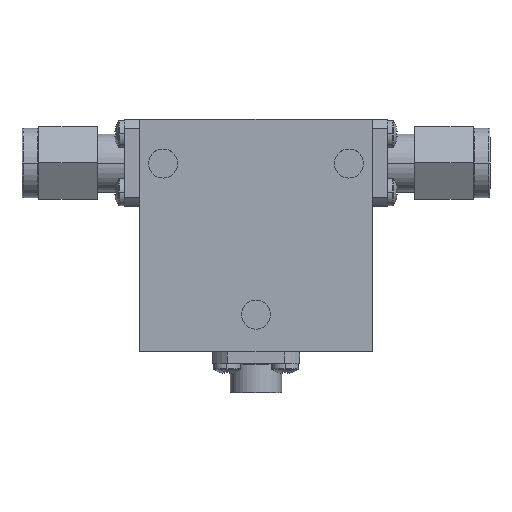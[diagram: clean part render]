
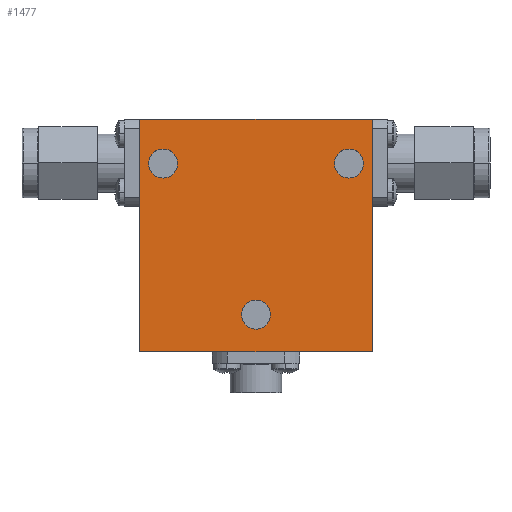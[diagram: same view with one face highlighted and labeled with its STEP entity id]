
A CAD part, top view. The second image highlights one B-rep face of the part: STEP entity #1477.
In plain terms, the highlighted planar face has unit normal (0, 0, 1) as drawn and (0, 0, -1) by its records, which use the part's own axes.
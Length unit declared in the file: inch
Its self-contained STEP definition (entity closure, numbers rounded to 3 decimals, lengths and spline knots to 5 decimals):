
#17 = DIRECTION ( 'NONE',  ( 1., 0., 0. ) ) ;
#37 = VECTOR ( 'NONE', #134, 39.37008 ) ;
#43 = ORIENTED_EDGE ( 'NONE', *, *, #104, .F. ) ;
#104 = EDGE_CURVE ( 'NONE', #691, #185, #471, .T. ) ;
#106 = CIRCLE ( 'NONE', #2997, 0.0625 ) ;
#134 = DIRECTION ( 'NONE',  ( -1., 0., 0. ) ) ;
#185 = VERTEX_POINT ( 'NONE', #2862 ) ;
#330 = DIRECTION ( 'NONE',  ( 0., 0., 1. ) ) ;
#381 = EDGE_LOOP ( 'NONE', ( #4296, #2577 ) ) ;
#430 = ORIENTED_EDGE ( 'NONE', *, *, #1859, .F. ) ;
#433 = CIRCLE ( 'NONE', #3480, 0.0625 ) ;
#459 = EDGE_CURVE ( 'NONE', #3503, #1146, #542, .T. ) ;
#471 = LINE ( 'NONE', #2142, #37 ) ;
#542 = CIRCLE ( 'NONE', #3862, 0.0625 ) ;
#566 = CARTESIAN_POINT ( 'NONE',  ( 0.0625, -0.34, -0.19 ) ) ;
#586 = VECTOR ( 'NONE', #3651, 39.37008 ) ;
#604 = DIRECTION ( 'NONE',  ( 0., 0., 1. ) ) ;
#691 = VERTEX_POINT ( 'NONE', #2368 ) ;
#764 = FACE_BOUND ( 'NONE', #381, .T. ) ;
#801 = DIRECTION ( 'NONE',  ( 0., -1., 0. ) ) ;
#812 = CARTESIAN_POINT ( 'NONE',  ( -0.4625, 0.31, -0.19 ) ) ;
#850 = DIRECTION ( 'NONE',  ( 1., 0., 0. ) ) ;
#902 = VECTOR ( 'NONE', #2497, 39.37008 ) ;
#907 = DIRECTION ( 'NONE',  ( 0., 0., 1. ) ) ;
#992 = DIRECTION ( 'NONE',  ( 1., 0., 0. ) ) ;
#1013 = LINE ( 'NONE', #4164, #902 ) ;
#1031 = CARTESIAN_POINT ( 'NONE',  ( -0.0625, -0.34, -0.19 ) ) ;
#1125 = CARTESIAN_POINT ( 'NONE',  ( -0.5, 0.5, -0.19 ) ) ;
#1128 = FACE_BOUND ( 'NONE', #3871, .T. ) ;
#1140 = CARTESIAN_POINT ( 'NONE',  ( 0.3375, 0.31, -0.19 ) ) ;
#1146 = VERTEX_POINT ( 'NONE', #1291 ) ;
#1185 = FACE_OUTER_BOUND ( 'NONE', #2544, .T. ) ;
#1247 = EDGE_CURVE ( 'NONE', #1758, #2768, #433, .T. ) ;
#1284 = CARTESIAN_POINT ( 'NONE',  ( 0., -0.34, -0.19 ) ) ;
#1291 = CARTESIAN_POINT ( 'NONE',  ( -0.3375, 0.31, -0.19 ) ) ;
#1297 = VERTEX_POINT ( 'NONE', #2206 ) ;
#1380 = ORIENTED_EDGE ( 'NONE', *, *, #2305, .T. ) ;
#1382 = AXIS2_PLACEMENT_3D ( 'NONE', #3003, #330, #992 ) ;
#1458 = ORIENTED_EDGE ( 'NONE', *, *, #3105, .F. ) ;
#1477 = ADVANCED_FACE ( 'NONE', ( #764, #1128, #2348, #1185 ), #4360, .F. ) ;
#1674 = VECTOR ( 'NONE', #801, 39.37008 ) ;
#1757 = EDGE_CURVE ( 'NONE', #3511, #691, #1013, .T. ) ;
#1758 = VERTEX_POINT ( 'NONE', #1140 ) ;
#1859 = EDGE_CURVE ( 'NONE', #1297, #3511, #3831, .T. ) ;
#1922 = CARTESIAN_POINT ( 'NONE',  ( 0., -0.34, -0.19 ) ) ;
#2107 = ORIENTED_EDGE ( 'NONE', *, *, #1757, .F. ) ;
#2142 = CARTESIAN_POINT ( 'NONE',  ( -0.5, 0.5, -0.19 ) ) ;
#2159 = AXIS2_PLACEMENT_3D ( 'NONE', #3729, #4090, #2763 ) ;
#2206 = CARTESIAN_POINT ( 'NONE',  ( -0.5, -0.5, -0.19 ) ) ;
#2289 = DIRECTION ( 'NONE',  ( 1., 0., 0. ) ) ;
#2305 = EDGE_CURVE ( 'NONE', #3701, #3922, #3045, .T. ) ;
#2323 = CARTESIAN_POINT ( 'NONE',  ( -0.4, 0.31, -0.19 ) ) ;
#2348 = FACE_BOUND ( 'NONE', #3498, .T. ) ;
#2368 = CARTESIAN_POINT ( 'NONE',  ( 0.5, 0.5, -0.19 ) ) ;
#2497 = DIRECTION ( 'NONE',  ( 0., 1., 0. ) ) ;
#2498 = DIRECTION ( 'NONE',  ( 1., 0., 0. ) ) ;
#2544 = EDGE_LOOP ( 'NONE', ( #2107, #430, #1458, #43 ) ) ;
#2559 = DIRECTION ( 'NONE',  ( 0., 0., 1. ) ) ;
#2562 = ORIENTED_EDGE ( 'NONE', *, *, #4141, .T. ) ;
#2563 = LINE ( 'NONE', #1125, #1674 ) ;
#2577 = ORIENTED_EDGE ( 'NONE', *, *, #1247, .T. ) ;
#2656 = CARTESIAN_POINT ( 'NONE',  ( -0.5, -0.5, -0.19 ) ) ;
#2736 = ORIENTED_EDGE ( 'NONE', *, *, #3653, .T. ) ;
#2763 = DIRECTION ( 'NONE',  ( 1., 0., 0. ) ) ;
#2768 = VERTEX_POINT ( 'NONE', #3712 ) ;
#2844 = EDGE_CURVE ( 'NONE', #2768, #1758, #4311, .T. ) ;
#2862 = CARTESIAN_POINT ( 'NONE',  ( -0.5, 0.5, -0.19 ) ) ;
#2915 = CARTESIAN_POINT ( 'NONE',  ( 0.4, 0.31, -0.19 ) ) ;
#2965 = CIRCLE ( 'NONE', #4073, 0.0625 ) ;
#2997 = AXIS2_PLACEMENT_3D ( 'NONE', #3849, #3170, #2498 ) ;
#3003 = CARTESIAN_POINT ( 'NONE',  ( 0., 0., -0.19 ) ) ;
#3045 = CIRCLE ( 'NONE', #4127, 0.0625 ) ;
#3105 = EDGE_CURVE ( 'NONE', #185, #1297, #2563, .T. ) ;
#3170 = DIRECTION ( 'NONE',  ( 0., 0., 1. ) ) ;
#3480 = AXIS2_PLACEMENT_3D ( 'NONE', #2915, #907, #850 ) ;
#3484 = CARTESIAN_POINT ( 'NONE',  ( 0.5, -0.5, -0.19 ) ) ;
#3498 = EDGE_LOOP ( 'NONE', ( #2562, #4181 ) ) ;
#3503 = VERTEX_POINT ( 'NONE', #812 ) ;
#3511 = VERTEX_POINT ( 'NONE', #3484 ) ;
#3651 = DIRECTION ( 'NONE',  ( 1., 0., 0. ) ) ;
#3653 = EDGE_CURVE ( 'NONE', #3922, #3701, #2965, .T. ) ;
#3701 = VERTEX_POINT ( 'NONE', #566 ) ;
#3712 = CARTESIAN_POINT ( 'NONE',  ( 0.4625, 0.31, -0.19 ) ) ;
#3729 = CARTESIAN_POINT ( 'NONE',  ( 0.4, 0.31, -0.19 ) ) ;
#3831 = LINE ( 'NONE', #2656, #586 ) ;
#3849 = CARTESIAN_POINT ( 'NONE',  ( -0.4, 0.31, -0.19 ) ) ;
#3862 = AXIS2_PLACEMENT_3D ( 'NONE', #2323, #4312, #17 ) ;
#3871 = EDGE_LOOP ( 'NONE', ( #1380, #2736 ) ) ;
#3922 = VERTEX_POINT ( 'NONE', #1031 ) ;
#4073 = AXIS2_PLACEMENT_3D ( 'NONE', #1284, #604, #2289 ) ;
#4090 = DIRECTION ( 'NONE',  ( 0., 0., 1. ) ) ;
#4127 = AXIS2_PLACEMENT_3D ( 'NONE', #1922, #2559, #4278 ) ;
#4141 = EDGE_CURVE ( 'NONE', #1146, #3503, #106, .T. ) ;
#4164 = CARTESIAN_POINT ( 'NONE',  ( 0.5, 0.5, -0.19 ) ) ;
#4181 = ORIENTED_EDGE ( 'NONE', *, *, #459, .T. ) ;
#4278 = DIRECTION ( 'NONE',  ( 1., 0., 0. ) ) ;
#4296 = ORIENTED_EDGE ( 'NONE', *, *, #2844, .T. ) ;
#4311 = CIRCLE ( 'NONE', #2159, 0.0625 ) ;
#4312 = DIRECTION ( 'NONE',  ( 0., 0., 1. ) ) ;
#4360 = PLANE ( 'NONE',  #1382 ) ;
